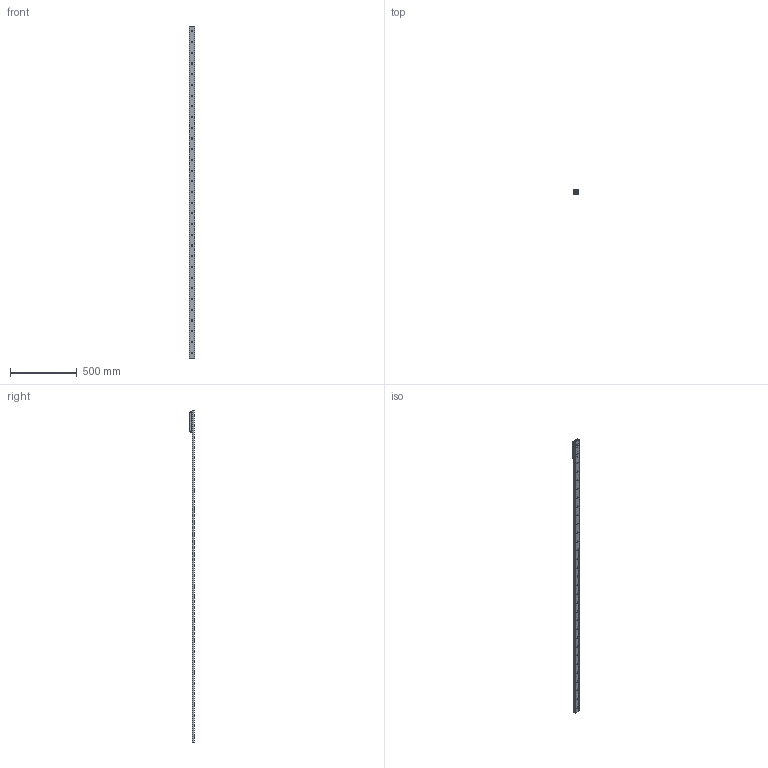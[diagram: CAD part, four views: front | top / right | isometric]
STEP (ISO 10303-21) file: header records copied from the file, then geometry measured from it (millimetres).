
FILE_DESCRIPTION( ( 'STEP AP214' ), '1' );
FILE_NAME( 'p:/temp/worker_11/temp/exporttempdir_1768_512_ogJjs/format_1/TGV-02480_1_RV43G-3.stp', '2021-05-14T19:18:49', ( 'License CC BY-ND 4.0' ), ( 'CADENAS' ), ' ', 'PARTsolutions', ' ' );
FILE_SCHEMA( ( 'AUTOMOTIVE_DESIGN { 1 0 10303 214 1 1 1 1 }' ) );
Length unit declared in the file: millimetre
Products named in the file (6): TGV-02480/1/RV43G-3; _TGV43-2480-(3-1); _RVG43-3-slider; _RGNV43R; _RGAV43R; _WR43G-01
Assembly tree (7 placements, depth 2):
  TGV-02480/1/RV43G-3
    _TGV43-2480-(3-1)
    _RVG43-3-slider
    _RGNV43R  x2
    _RGAV43R
    _WR43G-01  x2
Bounding box: 43 x 37 x 2480 mm (x, y, z)
Volume: 1028772.5 mm3; surface area: 414197.7 mm2
Topology: 7 solids, 7 shells, 1103 faces, 2879 edges, 1872 vertices
Faces by surface type: plane 663, cylinder 327, cone 70, bspline 34, torus 9
Full cylindrical faces by diameter (mm): 1.76 x4, 3 x8, 6 x4, 6.647 x4, 6.8 x3, 8 x3, 8.5 x31, 11 x11, 15 x6, 15.5 x1, 18.98 x2, 19 x1, 31.4 x6
Entity records: 26663 total; most frequent: CARTESIAN_POINT 4174, DIRECTION 3577, ORIENTED_EDGE 3250, EDGE_CURVE 1625, AXIS2_PLACEMENT_3D 1385, VERTEX_POINT 1144, EDGE_LOOP 983, LINE 807
